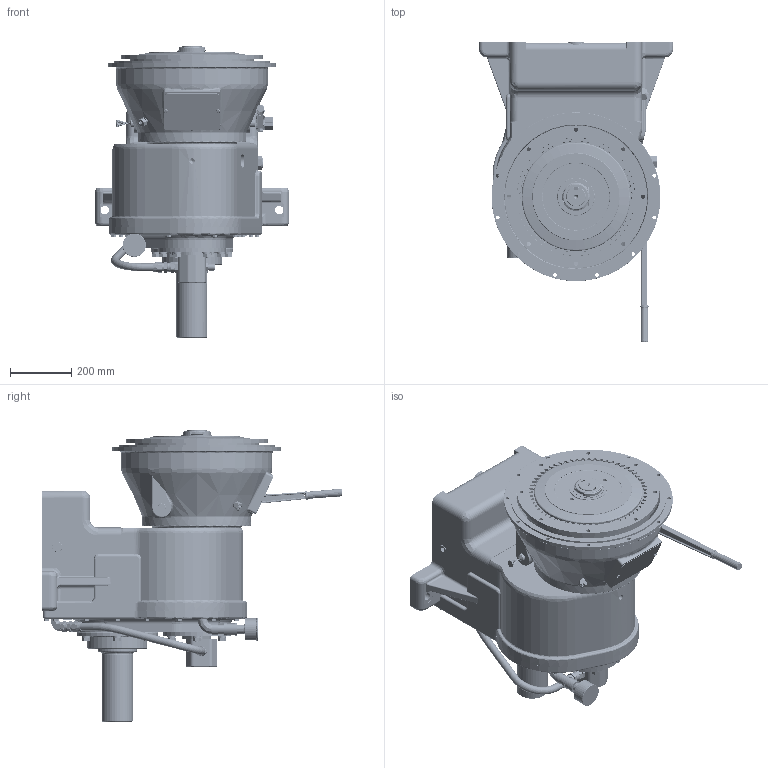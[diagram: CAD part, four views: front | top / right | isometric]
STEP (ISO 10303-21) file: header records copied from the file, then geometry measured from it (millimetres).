
FILE_DESCRIPTION (( 'STEP AP214' ), '1' );
FILE_NAME ('D244A296011.STEP', '2017-09-13T14:04:14', ( 'MikeMihajlovic' ), ( 'Microsoft' ), 'SwSTEP 2.0', 'SolidWorks 2017', '' );
FILE_SCHEMA (( 'AUTOMOTIVE_DESIGN' ));
Length unit declared in the file: inch
Products named in the file (61): PPSKM_75-14; D144087; LNTN-13; DWL_38X1_50; SHCS_25-20X1_00; LWTW-113; AVBF-16; D144088; OS5_000X6_250-2; PC1_00-11_5NPT; ME12-CTX-S; HH8CSZ_63-18X1_75; PN1_00NPTX2_00; SG1_00NPT-01; D144054_; STEL1_00NPT90; SSCP_38-16X_50; D144053; HHCSZ_38-16X1_75; BCN30313_BCP30313_ASM; SH144004_002; LWZ_38; 30313_CUP; SH144004_005; D144004; 30313_CONE; SH144004_0075; D144002B_ASM; SHK22505; SH144004_010; RD144002_AF0; SHK22507; DS90081A106; SHK22520; PPSKG_75-14; D144009; NP266409-1; STC10-F5OX-S; D144001R_ASM; FHSS_63-11X2_00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
Assembly tree (146 placements, depth 3):
  D244A296011
    D144001R_ASM
      D144001R_ASM
      RD144001_AF0
    D144009
    D144002B_ASM
      D144002B_ASM
      RD144002_AF0
    D144004
    LWZ_38  x24
    HHCSZ_38-16X1_75  x18
    STEL1_00NPT90
    PN1_00NPTX2_00
    PC1_00-11_5NPT
    AVBF-16
    DWL_38X1_50  x2
    PPSKM_75-14
    D244009
    D144063
    OS4_500X5_501-2
    HHCSZ_38-16X1_25  x6
    D17-1-SP314
    FHSS_63-11X2_00  x6
    NP266409-1
    SHK22520
    SHK22507  x2
    SHK22505  x2
    BCN30313_BCP30313_ASM
      30313_CONE
      30313_CUP
    SSCP_38-16X_50  x2
    SG1_00NPT-01
    ME12-CTX-S
    D144088
    SHCS_25-20X1_00  x2
    D144087
    LWZ_63  x12
    HHCSZ_63-11X1_50  x12
    LPPGP505-10CW
    SHCS_38-16X1_00  x2
    STC12-F5OX-S
    PPSKG1_00-11_5
    STC10-F5OX-S
    PPSKG_75-14
    DS90081A106  x2
    SH144004_010  x2
    SH144004_0075  x2
    SH144004_005  x2
    SH144004_002  x2
    D144053
    D144054_
    HH8CSZ_63-18X1_75  x2
    OS5_000X6_250-2
    LWTW-113
    LNTN-13
    CV7_25X5_00
    RHSKCS_25-20X_50  x2
    WTD-14-904
    HA-12-12-12-14_D244A296011
      .75IDX12_D244A296011_OUTPUT
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Bounding box: 635 x 984.58 x 956.44 mm (x, y, z)
Volume: 10311897 mm3; surface area: 6695120.4 mm2
Topology: 108 solids, 320 shells, 5934 faces, 16209 edges, 10825 vertices
Faces by surface type: cylinder 2464, plane 2245, cone 634, bspline 569, torus 22
Full cylindrical faces by diameter (mm): 19.685 x1, 24.663 x1
Entity records: 219081 total; most frequent: CARTESIAN_POINT 99452, ORIENTED_EDGE 23448, DIRECTION 22140, EDGE_CURVE 12721, VERTEX_POINT 8628, AXIS2_PLACEMENT_3D 8169, LINE 5802, VECTOR 5802
